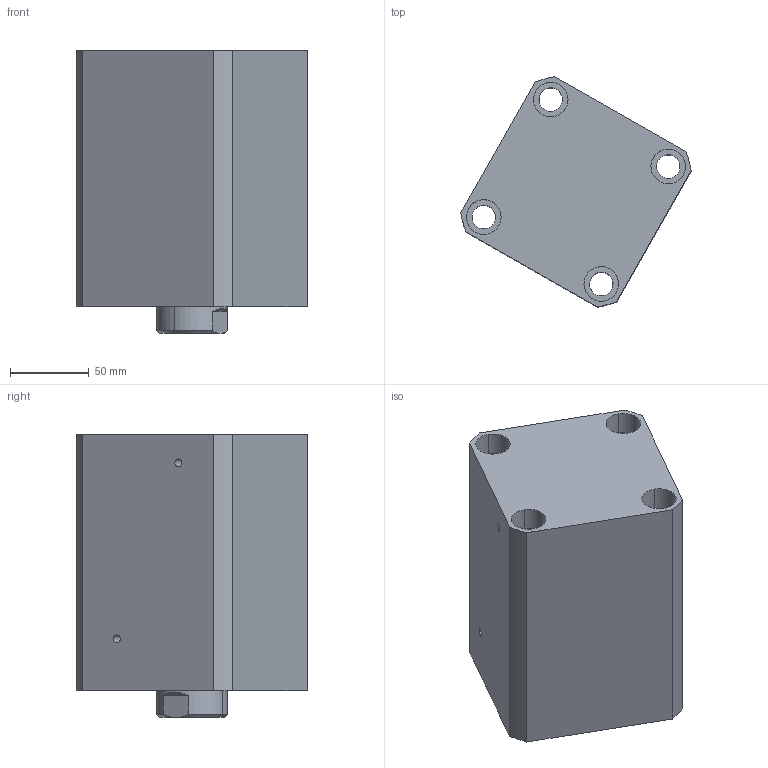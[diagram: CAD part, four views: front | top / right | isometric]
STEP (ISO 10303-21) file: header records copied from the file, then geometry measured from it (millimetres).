
FILE_DESCRIPTION (( 'STEP AP214' ), '1' );
FILE_NAME ('chtb-sdma80x85n_asm.STEP', '2018-05-29T02:22:06', ( 'Windows' ), ( 'Microsoft' ), 'SwSTEP 2.0', 'SolidWorks 2015', '' );
FILE_SCHEMA (( 'AUTOMOTIVE_DESIGN' ));
Length unit declared in the file: millimetre
Products named in the file (4): CHTB-SD80QG; chtb-sdma80x85n_asm; CHTB-SDMA80X85NBT; CHTB-SD80X85NHSG
Assembly tree (3 placements, depth 2):
  chtb-sdma80x85n_asm
    CHTB-SD80QG
    CHTB-SD80X85NHSG
    CHTB-SDMA80X85NBT
Bounding box: 146.55 x 146.55 x 180 mm (x, y, z)
Volume: 1646351 mm3; surface area: 238100.7 mm2
Topology: 3 solids, 3 shells, 190 faces, 516 edges, 345 vertices
Faces by surface type: cylinder 107, plane 35, torus 18, cone 16, bspline 14
Entity records: 15170 total; most frequent: CARTESIAN_POINT 10463, ORIENTED_EDGE 1020, DIRECTION 879, EDGE_CURVE 510, AXIS2_PLACEMENT_3D 368, VERTEX_POINT 345, EDGE_LOOP 227, ADVANCED_FACE 190
